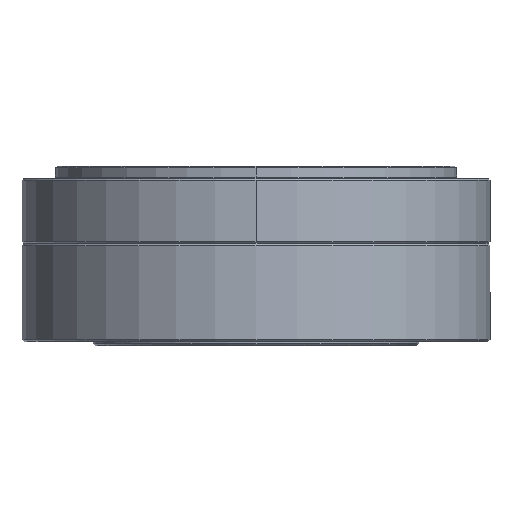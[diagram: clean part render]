
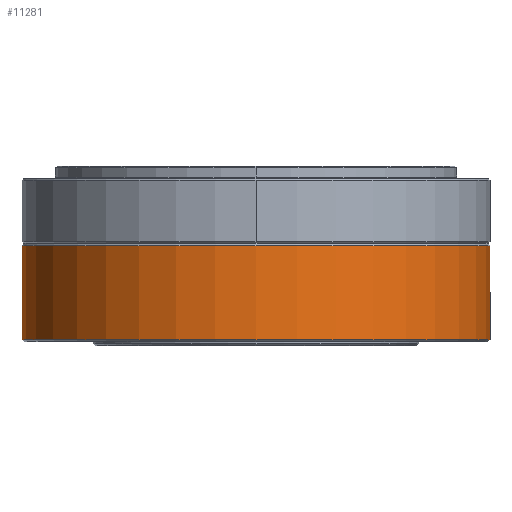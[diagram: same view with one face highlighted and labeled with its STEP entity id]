
A CAD part, front view. The second image highlights one B-rep face of the part: STEP entity #11281.
In plain terms, the highlighted cylindrical face has radius 56 mm (diameter 112 mm), a partial arc.
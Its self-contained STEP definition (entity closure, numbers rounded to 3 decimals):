
#632 = VERTEX_POINT ( 'NONE', #9094 ) ;
#935 = DIRECTION ( 'NONE',  ( 0., 0., -1. ) ) ;
#1860 = CARTESIAN_POINT ( 'NONE',  ( -10.556, 1.759, 124.25 ) ) ;
#2231 = EDGE_CURVE ( 'NONE', #632, #3892, #5727, .T. ) ;
#2664 = VERTEX_POINT ( 'NONE', #5891 ) ;
#3890 = AXIS2_PLACEMENT_3D ( 'NONE', #1860, #935, #11182 ) ;
#3892 = VERTEX_POINT ( 'NONE', #7375 ) ;
#3980 = AXIS2_PLACEMENT_3D ( 'NONE', #8716, #8757, #8815 ) ;
#4101 = EDGE_LOOP ( 'NONE', ( #10990, #6253, #7555, #7860 ) ) ;
#4489 = DIRECTION ( 'NONE',  ( 0., 0., -1. ) ) ;
#4910 = EDGE_CURVE ( 'NONE', #3892, #11270, #8743, .T. ) ;
#5144 = CIRCLE ( 'NONE', #5908, 56. ) ;
#5402 = VECTOR ( 'NONE', #4489, 1000. ) ;
#5593 = EDGE_CURVE ( 'NONE', #11270, #2664, #5144, .T. ) ;
#5727 = CIRCLE ( 'NONE', #3980, 56. ) ;
#5891 = CARTESIAN_POINT ( 'NONE',  ( 45.444, 1.759, 101.25 ) ) ;
#5908 = AXIS2_PLACEMENT_3D ( 'NONE', #9421, #9455, #9499 ) ;
#6253 = ORIENTED_EDGE ( 'NONE', *, *, #2231, .T. ) ;
#7180 = CYLINDRICAL_SURFACE ( 'NONE', #3890, 56. ) ;
#7375 = CARTESIAN_POINT ( 'NONE',  ( -66.556, 1.759, 123.75 ) ) ;
#7555 = ORIENTED_EDGE ( 'NONE', *, *, #4910, .T. ) ;
#7860 = ORIENTED_EDGE ( 'NONE', *, *, #5593, .T. ) ;
#7887 = LINE ( 'NONE', #10071, #5402 ) ;
#8716 = CARTESIAN_POINT ( 'NONE',  ( -10.556, 1.759, 123.75 ) ) ;
#8743 = LINE ( 'NONE', #8830, #10930 ) ;
#8757 = DIRECTION ( 'NONE',  ( 0., 0., -1. ) ) ;
#8815 = DIRECTION ( 'NONE',  ( 1., 0., 0. ) ) ;
#8830 = CARTESIAN_POINT ( 'NONE',  ( -66.556, 1.759, 124.25 ) ) ;
#8920 = FACE_OUTER_BOUND ( 'NONE', #4101, .T. ) ;
#9094 = CARTESIAN_POINT ( 'NONE',  ( 45.444, 1.759, 123.75 ) ) ;
#9326 = EDGE_CURVE ( 'NONE', #632, #2664, #7887, .T. ) ;
#9421 = CARTESIAN_POINT ( 'NONE',  ( -10.556, 1.759, 101.25 ) ) ;
#9455 = DIRECTION ( 'NONE',  ( 0., 0., 1. ) ) ;
#9499 = DIRECTION ( 'NONE',  ( 1., 0., 0. ) ) ;
#10071 = CARTESIAN_POINT ( 'NONE',  ( 45.444, 1.759, 124.25 ) ) ;
#10233 = CARTESIAN_POINT ( 'NONE',  ( -66.556, 1.759, 101.25 ) ) ;
#10629 = DIRECTION ( 'NONE',  ( 0., 0., -1. ) ) ;
#10930 = VECTOR ( 'NONE', #10629, 1000. ) ;
#10990 = ORIENTED_EDGE ( 'NONE', *, *, #9326, .F. ) ;
#11182 = DIRECTION ( 'NONE',  ( -1., 0., 0. ) ) ;
#11270 = VERTEX_POINT ( 'NONE', #10233 ) ;
#11281 = ADVANCED_FACE ( 'NONE', ( #8920 ), #7180, .T. ) ;
